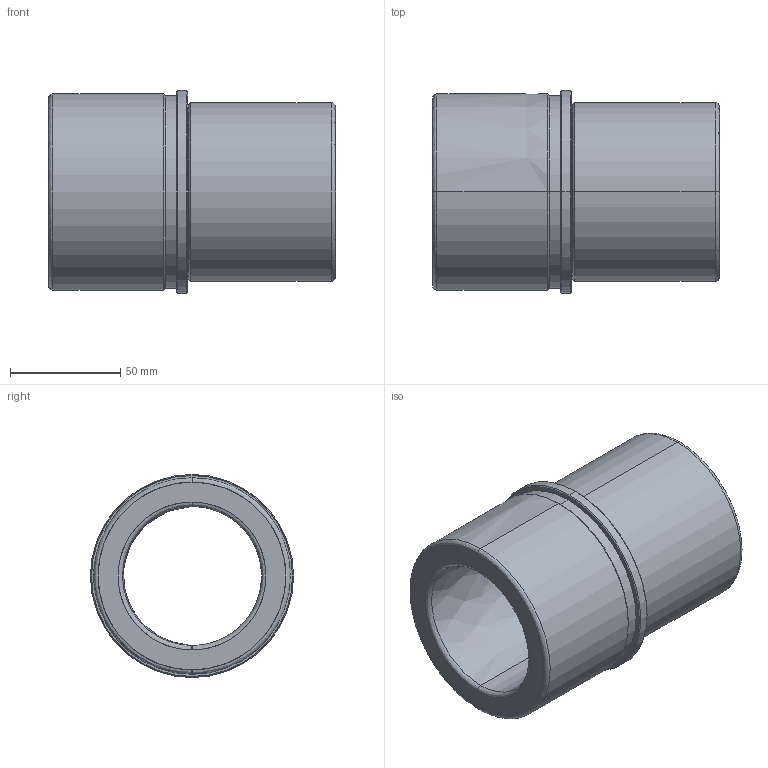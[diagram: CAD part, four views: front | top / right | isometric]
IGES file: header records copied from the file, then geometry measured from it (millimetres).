
Start section: START RECORD GO HERE.
Global section: file name: FAMO-SF1-D63 x 130.igs; native system: DASSAULT SYSTEMES CATIA V5 R20 - www.3ds.com; preprocessor: CATIA Version 5 Release 20 ; author: Utente; organization: NB04-ASUS; date: 20210106.174445; units: millimetre
Bounding box: 130 x 92 x 92 mm (x, y, z)
Surface area: 67828.5 mm2 (no closed solid volume)
Topology: 0 solids, 0 shells, 37 faces, 250 edges, 250 vertices
Faces by surface type: revolution 32, plane 5
